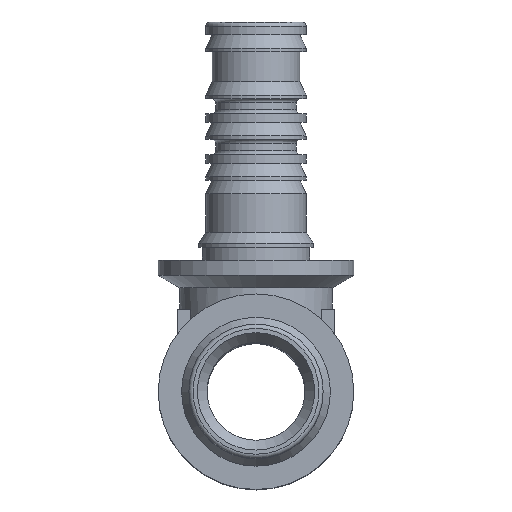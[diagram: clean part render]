
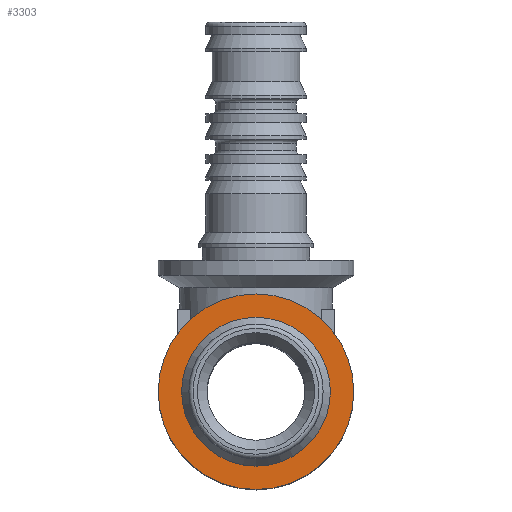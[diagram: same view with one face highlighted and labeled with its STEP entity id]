
A CAD part, top view. The second image highlights one B-rep face of the part: STEP entity #3303.
In plain terms, the highlighted planar face has unit normal (0, 0, 1).
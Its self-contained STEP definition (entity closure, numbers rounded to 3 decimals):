
#99=FACE_BOUND('',#532,.T.);
#142=PLANE('',#3774);
#315=FACE_OUTER_BOUND('',#531,.T.);
#531=EDGE_LOOP('',(#2841,#2842));
#532=EDGE_LOOP('',(#2843,#2844));
#1286=CIRCLE('',#3772,8.3);
#1287=CIRCLE('',#3773,8.3);
#1288=CIRCLE('',#3775,11.5);
#1289=CIRCLE('',#3776,11.5);
#1559=VERTEX_POINT('',#5704);
#1560=VERTEX_POINT('',#5705);
#1561=VERTEX_POINT('',#5710);
#1562=VERTEX_POINT('',#5711);
#2004=EDGE_CURVE('',#1559,#1560,#1286,.T.);
#2005=EDGE_CURVE('',#1560,#1559,#1287,.T.);
#2007=EDGE_CURVE('',#1561,#1562,#1288,.T.);
#2008=EDGE_CURVE('',#1562,#1561,#1289,.T.);
#2841=ORIENTED_EDGE('',*,*,#2007,.F.);
#2842=ORIENTED_EDGE('',*,*,#2008,.F.);
#2843=ORIENTED_EDGE('',*,*,#2004,.T.);
#2844=ORIENTED_EDGE('',*,*,#2005,.T.);
#3303=ADVANCED_FACE('',(#315,#99),#142,.T.);
#3772=AXIS2_PLACEMENT_3D('',#5706,#4696,#4697);
#3773=AXIS2_PLACEMENT_3D('',#5707,#4698,#4699);
#3774=AXIS2_PLACEMENT_3D('',#5709,#4701,#4702);
#3775=AXIS2_PLACEMENT_3D('',#5712,#4703,#4704);
#3776=AXIS2_PLACEMENT_3D('',#5713,#4705,#4706);
#4696=DIRECTION('center_axis',(0.,0.,-1.));
#4697=DIRECTION('ref_axis',(1.,0.,0.));
#4698=DIRECTION('center_axis',(0.,0.,-1.));
#4699=DIRECTION('ref_axis',(1.,0.,0.));
#4701=DIRECTION('center_axis',(0.,0.,1.));
#4702=DIRECTION('ref_axis',(1.,0.,0.));
#4703=DIRECTION('center_axis',(0.,0.,-1.));
#4704=DIRECTION('ref_axis',(1.,0.,0.));
#4705=DIRECTION('center_axis',(0.,0.,-1.));
#4706=DIRECTION('ref_axis',(1.,0.,0.));
#5704=CARTESIAN_POINT('',(0.,8.3,59.));
#5705=CARTESIAN_POINT('',(0.,-8.3,59.));
#5706=CARTESIAN_POINT('Origin',(0.,0.,59.));
#5707=CARTESIAN_POINT('Origin',(0.,0.,59.));
#5709=CARTESIAN_POINT('Origin',(0.,11.5,59.));
#5710=CARTESIAN_POINT('',(0.,11.5,59.));
#5711=CARTESIAN_POINT('',(0.,-11.5,59.));
#5712=CARTESIAN_POINT('Origin',(0.,0.,59.));
#5713=CARTESIAN_POINT('Origin',(0.,0.,59.));
